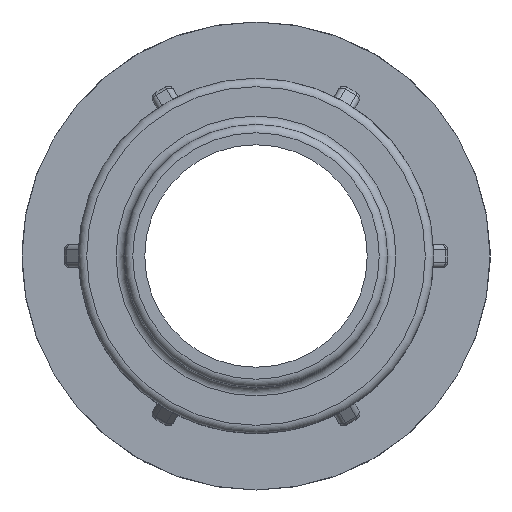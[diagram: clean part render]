
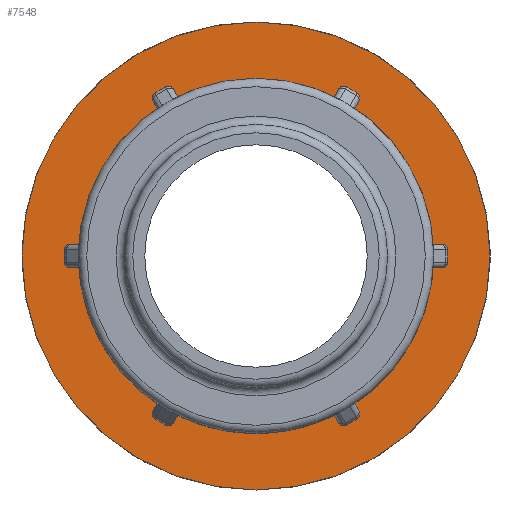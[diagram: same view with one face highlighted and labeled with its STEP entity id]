
A CAD part, left-side view. The second image highlights one B-rep face of the part: STEP entity #7548.
In plain terms, the highlighted planar face has unit normal (-1, 0, 0).
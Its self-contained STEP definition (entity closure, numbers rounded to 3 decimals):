
#26=FACE_BOUND('',#1424,.T.);
#113=ELLIPSE('',#7628,1.782,1.26);
#114=ELLIPSE('',#7649,1.782,1.26);
#117=ELLIPSE('',#7744,1.782,1.26);
#118=ELLIPSE('',#7765,1.782,1.26);
#121=ELLIPSE('',#7860,1.782,1.26);
#122=ELLIPSE('',#7881,1.782,1.26);
#125=ELLIPSE('',#7976,1.782,1.26);
#126=ELLIPSE('',#7997,1.782,1.26);
#129=ELLIPSE('',#8092,1.782,1.26);
#130=ELLIPSE('',#8113,1.782,1.26);
#134=ELLIPSE('',#8383,1.782,1.26);
#135=ELLIPSE('',#8404,1.782,1.26);
#288=PLANE('',#8471);
#943=FACE_OUTER_BOUND('',#1423,.T.);
#1423=EDGE_LOOP('',(#6832));
#1424=EDGE_LOOP('',(#6833,#6834,#6835,#6836,#6837,#6838,#6839,#6840,#6841,
#6842,#6843,#6844,#6845,#6846,#6847,#6848,#6849,#6850,#6851,#6852,#6853,
#6854,#6855,#6856));
#1476=LINE('',#11111,#1926);
#1535=LINE('',#11588,#1985);
#1594=LINE('',#12065,#2044);
#1653=LINE('',#12540,#2103);
#1712=LINE('',#13017,#2162);
#1859=LINE('',#14369,#2309);
#1926=VECTOR('',#8664,2.78);
#1985=VECTOR('',#8955,2.78);
#2044=VECTOR('',#9246,2.78);
#2103=VECTOR('',#9537,2.78);
#2162=VECTOR('',#9828,2.78);
#2309=VECTOR('',#10557,2.78);
#2755=CIRCLE('',#8309,38.588);
#2756=CIRCLE('',#8311,38.588);
#2757=CIRCLE('',#8313,38.588);
#2758=CIRCLE('',#8315,38.588);
#2759=CIRCLE('',#8317,38.588);
#2842=CIRCLE('',#8472,53.);
#2843=CIRCLE('',#8473,38.588);
#2907=VERTEX_POINT('',#11091);
#2908=VERTEX_POINT('',#11103);
#2910=VERTEX_POINT('',#11109);
#2923=VERTEX_POINT('',#11166);
#2996=VERTEX_POINT('',#11568);
#2997=VERTEX_POINT('',#11580);
#2999=VERTEX_POINT('',#11586);
#3012=VERTEX_POINT('',#11643);
#3085=VERTEX_POINT('',#12045);
#3086=VERTEX_POINT('',#12057);
#3088=VERTEX_POINT('',#12063);
#3101=VERTEX_POINT('',#12120);
#3174=VERTEX_POINT('',#12520);
#3175=VERTEX_POINT('',#12532);
#3177=VERTEX_POINT('',#12538);
#3190=VERTEX_POINT('',#12595);
#3263=VERTEX_POINT('',#12997);
#3264=VERTEX_POINT('',#13009);
#3266=VERTEX_POINT('',#13015);
#3279=VERTEX_POINT('',#13072);
#3435=VERTEX_POINT('',#14113);
#3482=VERTEX_POINT('',#14349);
#3483=VERTEX_POINT('',#14361);
#3485=VERTEX_POINT('',#14367);
#3521=VERTEX_POINT('',#14563);
#3611=EDGE_CURVE('',#2908,#2907,#113,.F.);
#3614=EDGE_CURVE('',#2908,#2910,#1476,.T.);
#3639=EDGE_CURVE('',#2910,#2923,#114,.T.);
#3753=EDGE_CURVE('',#2997,#2996,#117,.F.);
#3756=EDGE_CURVE('',#2997,#2999,#1535,.T.);
#3781=EDGE_CURVE('',#2999,#3012,#118,.T.);
#3895=EDGE_CURVE('',#3086,#3085,#121,.F.);
#3898=EDGE_CURVE('',#3086,#3088,#1594,.T.);
#3923=EDGE_CURVE('',#3088,#3101,#122,.T.);
#4037=EDGE_CURVE('',#3175,#3174,#125,.F.);
#4040=EDGE_CURVE('',#3175,#3177,#1653,.T.);
#4065=EDGE_CURVE('',#3177,#3190,#126,.T.);
#4179=EDGE_CURVE('',#3264,#3263,#129,.F.);
#4182=EDGE_CURVE('',#3264,#3266,#1712,.T.);
#4207=EDGE_CURVE('',#3266,#3279,#130,.T.);
#4483=EDGE_CURVE('',#3263,#3435,#2755,.F.);
#4486=EDGE_CURVE('',#3279,#3174,#2756,.T.);
#4487=EDGE_CURVE('',#3190,#3085,#2757,.T.);
#4488=EDGE_CURVE('',#3101,#2996,#2758,.T.);
#4489=EDGE_CURVE('',#3012,#2907,#2759,.T.);
#4567=EDGE_CURVE('',#3483,#3482,#134,.F.);
#4570=EDGE_CURVE('',#3483,#3485,#1859,.T.);
#4594=EDGE_CURVE('',#3485,#3435,#135,.T.);
#4644=EDGE_CURVE('',#3521,#3521,#2842,.T.);
#4645=EDGE_CURVE('',#2923,#3482,#2843,.T.);
#6832=ORIENTED_EDGE('',*,*,#4644,.F.);
#6833=ORIENTED_EDGE('',*,*,#4645,.T.);
#6834=ORIENTED_EDGE('',*,*,#4567,.F.);
#6835=ORIENTED_EDGE('',*,*,#4570,.T.);
#6836=ORIENTED_EDGE('',*,*,#4594,.T.);
#6837=ORIENTED_EDGE('',*,*,#4483,.F.);
#6838=ORIENTED_EDGE('',*,*,#4179,.F.);
#6839=ORIENTED_EDGE('',*,*,#4182,.T.);
#6840=ORIENTED_EDGE('',*,*,#4207,.T.);
#6841=ORIENTED_EDGE('',*,*,#4486,.T.);
#6842=ORIENTED_EDGE('',*,*,#4037,.F.);
#6843=ORIENTED_EDGE('',*,*,#4040,.T.);
#6844=ORIENTED_EDGE('',*,*,#4065,.T.);
#6845=ORIENTED_EDGE('',*,*,#4487,.T.);
#6846=ORIENTED_EDGE('',*,*,#3895,.F.);
#6847=ORIENTED_EDGE('',*,*,#3898,.T.);
#6848=ORIENTED_EDGE('',*,*,#3923,.T.);
#6849=ORIENTED_EDGE('',*,*,#4488,.T.);
#6850=ORIENTED_EDGE('',*,*,#3753,.F.);
#6851=ORIENTED_EDGE('',*,*,#3756,.T.);
#6852=ORIENTED_EDGE('',*,*,#3781,.T.);
#6853=ORIENTED_EDGE('',*,*,#4489,.T.);
#6854=ORIENTED_EDGE('',*,*,#3611,.F.);
#6855=ORIENTED_EDGE('',*,*,#3614,.T.);
#6856=ORIENTED_EDGE('',*,*,#3639,.T.);
#7548=ADVANCED_FACE('',(#943,#26),#288,.T.);
#7628=AXIS2_PLACEMENT_3D('',#11105,#8658,#8659);
#7649=AXIS2_PLACEMENT_3D('',#11167,#8720,#8721);
#7744=AXIS2_PLACEMENT_3D('',#11582,#8949,#8950);
#7765=AXIS2_PLACEMENT_3D('',#11644,#9011,#9012);
#7860=AXIS2_PLACEMENT_3D('',#12059,#9240,#9241);
#7881=AXIS2_PLACEMENT_3D('',#12121,#9302,#9303);
#7976=AXIS2_PLACEMENT_3D('',#12534,#9531,#9532);
#7997=AXIS2_PLACEMENT_3D('',#12596,#9593,#9594);
#8092=AXIS2_PLACEMENT_3D('',#13011,#9822,#9823);
#8113=AXIS2_PLACEMENT_3D('',#13073,#9884,#9885);
#8309=AXIS2_PLACEMENT_3D('',#14114,#10371,#10372);
#8311=AXIS2_PLACEMENT_3D('',#14130,#10375,#10376);
#8313=AXIS2_PLACEMENT_3D('',#14132,#10379,#10380);
#8315=AXIS2_PLACEMENT_3D('',#14134,#10383,#10384);
#8317=AXIS2_PLACEMENT_3D('',#14136,#10387,#10388);
#8383=AXIS2_PLACEMENT_3D('',#14363,#10551,#10552);
#8404=AXIS2_PLACEMENT_3D('',#14417,#10613,#10614);
#8471=AXIS2_PLACEMENT_3D('',#14562,#10762,#10763);
#8472=AXIS2_PLACEMENT_3D('',#14564,#10764,#10765);
#8473=AXIS2_PLACEMENT_3D('',#14565,#10766,#10767);
#8658=DIRECTION('center_axis',(1.,0.,0.));
#8659=DIRECTION('ref_axis',(0.,0.5,-0.866));
#8664=DIRECTION('',(0.,0.866,0.5));
#8720=DIRECTION('center_axis',(1.,0.,0.));
#8721=DIRECTION('ref_axis',(0.,0.5,-0.866));
#8949=DIRECTION('center_axis',(1.,0.,0.));
#8950=DIRECTION('ref_axis',(0.,-0.5,-0.866));
#8955=DIRECTION('',(0.,0.866,-0.5));
#9011=DIRECTION('center_axis',(1.,0.,0.));
#9012=DIRECTION('ref_axis',(0.,-0.5,-0.866));
#9240=DIRECTION('center_axis',(1.,0.,0.));
#9241=DIRECTION('ref_axis',(0.,-1.,0.));
#9246=DIRECTION('',(0.,0.,-1.));
#9302=DIRECTION('center_axis',(1.,0.,0.));
#9303=DIRECTION('ref_axis',(0.,-1.,0.));
#9531=DIRECTION('center_axis',(1.,0.,0.));
#9532=DIRECTION('ref_axis',(0.,-0.5,0.866));
#9537=DIRECTION('',(0.,-0.866,-0.5));
#9593=DIRECTION('center_axis',(1.,0.,0.));
#9594=DIRECTION('ref_axis',(0.,-0.5,0.866));
#9822=DIRECTION('center_axis',(1.,0.,0.));
#9823=DIRECTION('ref_axis',(0.,0.5,0.866));
#9828=DIRECTION('',(0.,-0.866,0.5));
#9884=DIRECTION('center_axis',(1.,0.,0.));
#9885=DIRECTION('ref_axis',(0.,0.5,0.866));
#10371=DIRECTION('center_axis',(1.,0.,0.));
#10372=DIRECTION('ref_axis',(0.,1.,0.));
#10375=DIRECTION('center_axis',(1.,0.,0.));
#10376=DIRECTION('ref_axis',(0.,1.,0.));
#10379=DIRECTION('center_axis',(1.,0.,0.));
#10380=DIRECTION('ref_axis',(0.,1.,0.));
#10383=DIRECTION('center_axis',(1.,0.,0.));
#10384=DIRECTION('ref_axis',(0.,1.,0.));
#10387=DIRECTION('center_axis',(1.,0.,0.));
#10388=DIRECTION('ref_axis',(0.,1.,0.));
#10551=DIRECTION('center_axis',(1.,0.,0.));
#10552=DIRECTION('ref_axis',(0.,1.,0.));
#10557=DIRECTION('',(0.,0.,1.));
#10613=DIRECTION('center_axis',(1.,0.,0.));
#10614=DIRECTION('ref_axis',(0.,1.,0.));
#10762=DIRECTION('center_axis',(-1.,0.,0.));
#10763=DIRECTION('ref_axis',(0.,0.,1.));
#10764=DIRECTION('center_axis',(1.,0.,0.));
#10765=DIRECTION('ref_axis',(0.,0.,-1.));
#10766=DIRECTION('center_axis',(1.,0.,0.));
#10767=DIRECTION('ref_axis',(0.,1.,0.));
#11091=CARTESIAN_POINT('',(30.06,17.859,-34.207));
#11103=CARTESIAN_POINT('',(30.06,18.09,-34.114));
#11105=CARTESIAN_POINT('Origin',(30.06,17.199,-32.57));
#11109=CARTESIAN_POINT('',(30.06,20.498,-32.724));
#11111=CARTESIAN_POINT('',(30.06,39.169,-21.944));
#11166=CARTESIAN_POINT('',(30.06,20.695,-32.57));
#11167=CARTESIAN_POINT('Origin',(30.06,19.607,-31.18));
#11568=CARTESIAN_POINT('',(30.06,-20.695,-32.57));
#11580=CARTESIAN_POINT('',(30.06,-20.498,-32.724));
#11582=CARTESIAN_POINT('Origin',(30.06,-19.607,-31.18));
#11586=CARTESIAN_POINT('',(30.06,-18.09,-34.114));
#11588=CARTESIAN_POINT('',(30.06,0.581,-44.893));
#11643=CARTESIAN_POINT('',(30.06,-17.859,-34.207));
#11644=CARTESIAN_POINT('Origin',(30.06,-17.199,-32.57));
#12045=CARTESIAN_POINT('',(30.06,-38.554,1.638));
#12057=CARTESIAN_POINT('',(30.06,-38.588,1.39));
#12059=CARTESIAN_POINT('Origin',(30.06,-36.806,1.39));
#12063=CARTESIAN_POINT('',(30.06,-38.588,-1.39));
#12065=CARTESIAN_POINT('',(30.06,-38.588,0.));
#12120=CARTESIAN_POINT('',(30.06,-38.554,-1.638));
#12121=CARTESIAN_POINT('Origin',(30.06,-36.806,-1.39));
#12520=CARTESIAN_POINT('',(30.06,-17.859,34.207));
#12532=CARTESIAN_POINT('',(30.06,-18.09,34.114));
#12534=CARTESIAN_POINT('Origin',(30.06,-17.199,32.57));
#12538=CARTESIAN_POINT('',(30.06,-20.498,32.724));
#12540=CARTESIAN_POINT('',(30.06,0.581,44.893));
#12595=CARTESIAN_POINT('',(30.06,-20.695,32.57));
#12596=CARTESIAN_POINT('Origin',(30.06,-19.607,31.18));
#12997=CARTESIAN_POINT('',(30.06,20.695,32.57));
#13009=CARTESIAN_POINT('',(30.06,20.498,32.724));
#13011=CARTESIAN_POINT('Origin',(30.06,19.607,31.18));
#13015=CARTESIAN_POINT('',(30.06,18.09,34.114));
#13017=CARTESIAN_POINT('',(30.06,39.169,21.944));
#13072=CARTESIAN_POINT('',(30.06,17.859,34.207));
#13073=CARTESIAN_POINT('Origin',(30.06,17.199,32.57));
#14113=CARTESIAN_POINT('',(30.06,38.554,1.638));
#14114=CARTESIAN_POINT('Origin',(30.06,0.,0.));
#14130=CARTESIAN_POINT('Origin',(30.06,0.,0.));
#14132=CARTESIAN_POINT('Origin',(30.06,0.,0.));
#14134=CARTESIAN_POINT('Origin',(30.06,0.,0.));
#14136=CARTESIAN_POINT('Origin',(30.06,0.,0.));
#14349=CARTESIAN_POINT('',(30.06,38.554,-1.638));
#14361=CARTESIAN_POINT('',(30.06,38.588,-1.39));
#14363=CARTESIAN_POINT('Origin',(30.06,36.806,-1.39));
#14367=CARTESIAN_POINT('',(30.06,38.588,1.39));
#14369=CARTESIAN_POINT('',(30.06,38.588,0.));
#14417=CARTESIAN_POINT('Origin',(30.06,36.806,1.39));
#14562=CARTESIAN_POINT('Origin',(30.06,53.,0.));
#14563=CARTESIAN_POINT('',(30.06,53.,0.));
#14564=CARTESIAN_POINT('Origin',(30.06,0.,0.));
#14565=CARTESIAN_POINT('Origin',(30.06,0.,0.));
